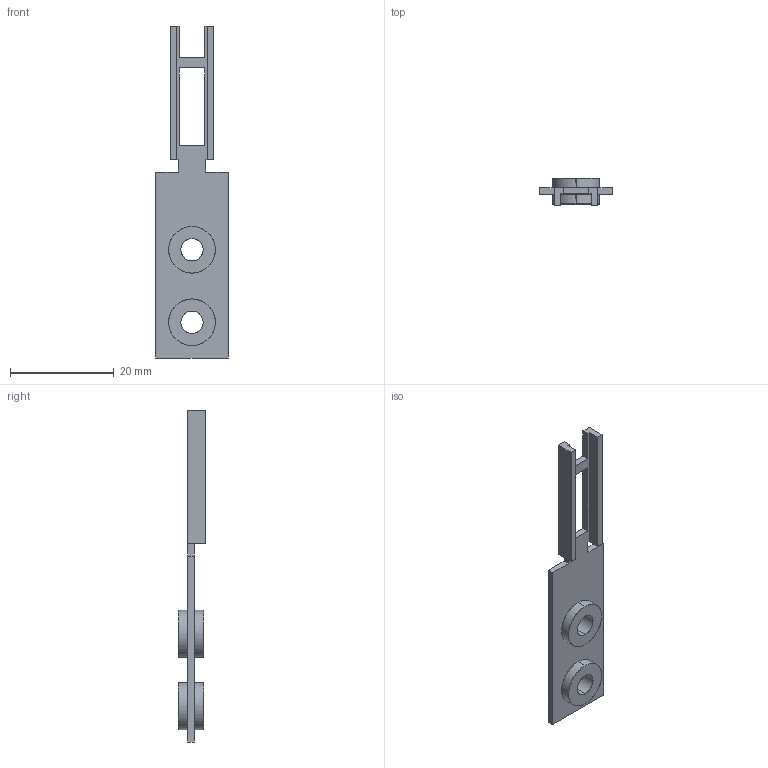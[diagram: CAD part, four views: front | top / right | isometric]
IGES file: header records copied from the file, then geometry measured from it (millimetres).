
Start section: SolidWorks IGES file using analytic representation for surfaces
Global section: file name: C:\catalog\sg-k11.IGS; native system: SolidWorks 2010; preprocessor: SolidWorks 2010; author: kk1675; date: 130723.125741; units: millimetre
Bounding box: 14 x 5.4 x 64.1 mm (x, y, z)
Surface area: 2051.6 mm2 (no closed solid volume)
Topology: 0 solids, 0 shells, 42 faces, 576 edges, 576 vertices
Faces by surface type: bspline 30, revolution 12
